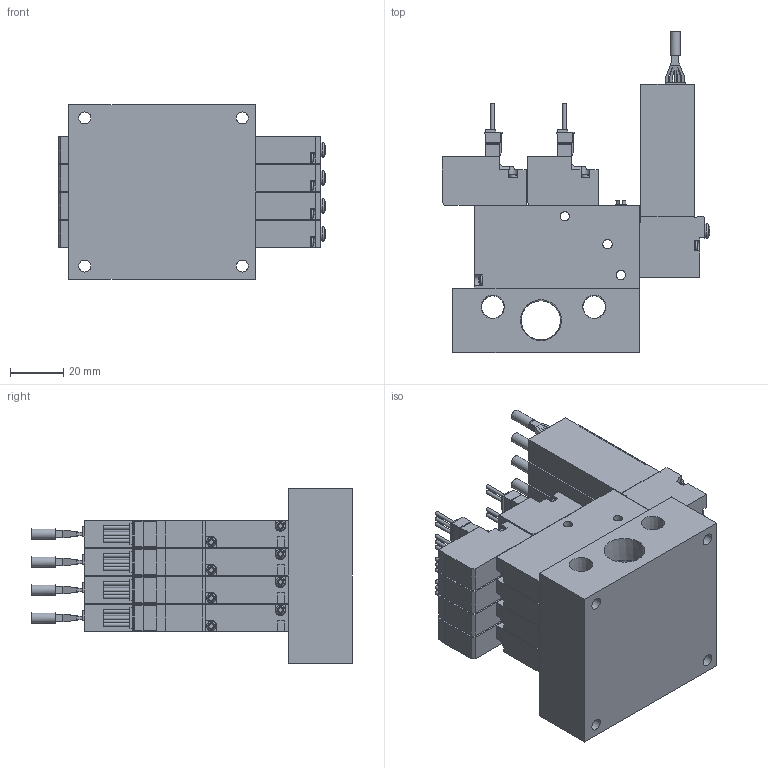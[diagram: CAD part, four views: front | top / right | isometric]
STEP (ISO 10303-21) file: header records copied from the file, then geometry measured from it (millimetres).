
FILE_DESCRIPTION(('STEP AP203'),'1');
FILE_NAME('BMPV42MV9.V9P5W404.stp','2025-04-30T01:50:23',(' '),(' '),'Spatial InterOp 3D',' ',' ');
FILE_SCHEMA(('CONFIG_CONTROL_DESIGN'));
Length unit declared in the file: millimetre
Products named in the file (6): BMPV42MV9.V9P5W404; VACUUM VALVE FUNCTION MPV42-W; VACUUM SENSOR MPV42-V9; VACUUM VALVE FUNCTION MPV42-A; UNIT-MPV42; MPV42-M40R-1
Assembly tree (17 placements, depth 2):
  BMPV42MV9.V9P5W404
    VACUUM VALVE FUNCTION MPV42-W  x4
    VACUUM SENSOR MPV42-V9  x4
    VACUUM VALVE FUNCTION MPV42-A  x4
    UNIT-MPV42  x4
    MPV42-M40R-1
Bounding box: 100.35 x 120.3 x 65.5 mm (x, y, z)
Volume: 267026 mm3; surface area: 89189.9 mm2
Topology: 17 solids, 17 shells, 1551 faces, 4197 edges, 2780 vertices
Faces by surface type: plane 1214, cylinder 275, cone 22, torus 20, sphere 20
Full cylindrical faces by diameter (mm): 1.4 x20, 1.8 x4, 2.2 x8, 3 x16, 3.5 x44, 3.8 x4, 4.134 x8, 4.5 x4, 5 x4, 5.5 x4, 8.441 x2, 14.744 x1
Entity records: 12754 total; most frequent: CARTESIAN_POINT 2421, DIRECTION 2024, ORIENTED_EDGE 2016, EDGE_CURVE 1008, LINE 788, VECTOR 788, VERTEX_POINT 697, AXIS2_PLACEMENT_3D 618
